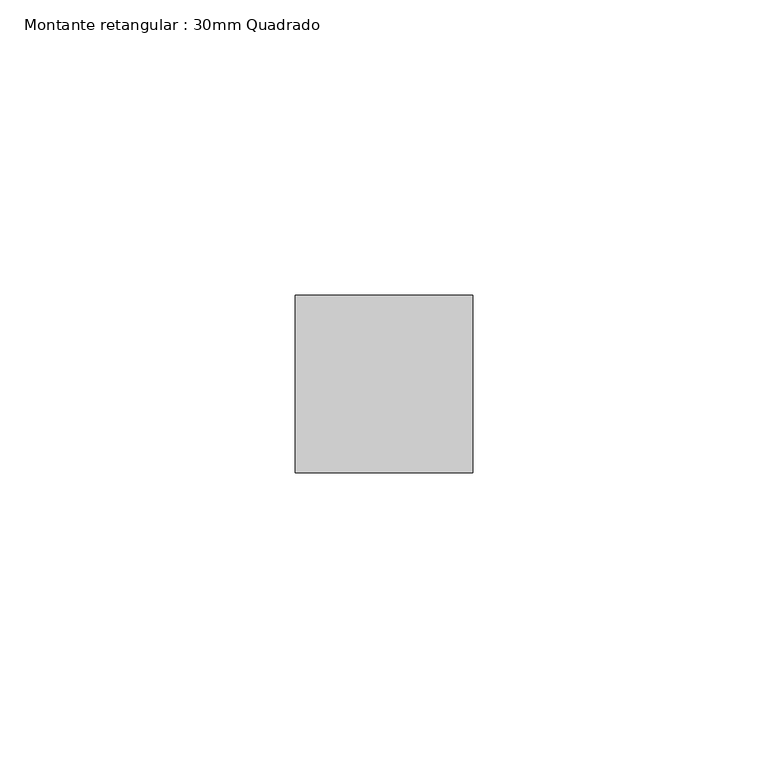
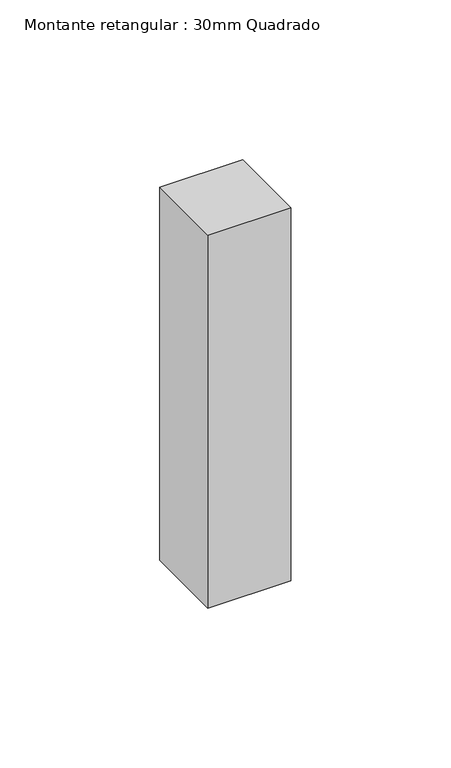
"""IFC4 building model written with IfcOpenShell, lengths in millimetres: member geometry, Montante retangular : 30mm Quadrado."""

from ifc_helpers import new_model, si_unit, frame, origin, place, context, project, spatial, polyline, outline, extrude, source, transform, mapped, element, save


def montante_retangular_30mm_quadrado_ac46af65(model_context):
    return source(origin(), model_context, "Body", "SweptSolid", [
        extrude(outline(polyline([(15.0, 15.0), (15.0, -15.0), (-15.0, -15.0), (-15.0, 15.0), (15.0, 15.0)])), frame((0.0, 0.0, -142.4309141), z_axis=(0.0, 0.0, 1.0), x_axis=(1.0, 0.0, 0.0)), (0.0, 0.0, 1.0), 142.4309141),
    ])


if __name__ == "__main__":
    model = new_model("IFC4")
    model_context = context("Model", 3, world=origin())
    ifc_project = project(units=[si_unit("LENGTHUNIT", "METRE", prefix="MILLI")], contexts=[model_context])
    site = spatial("IfcSite", under=ifc_project)
    building = spatial("IfcBuilding", under=site)
    placement = place(None, origin())
    montante_retangular_30mm_quadrado_shape = montante_retangular_30mm_quadrado_ac46af65(model_context)
    element("IfcMember", 1, ObjectType="Montante retangular : 30mm Quadrado", at=placement, inside=building, context=model_context, shape_type="MappedRepresentation", body=[
        mapped(montante_retangular_30mm_quadrado_shape, transform((0.0, 0.0, 0.0), x_axis=(1.0, 0.0, 0.0), y_axis=(0.0, 1.0, 0.0), z_axis=(0.0, 0.0, 1.0))),
    ])
    save(model, "model.ifc")
